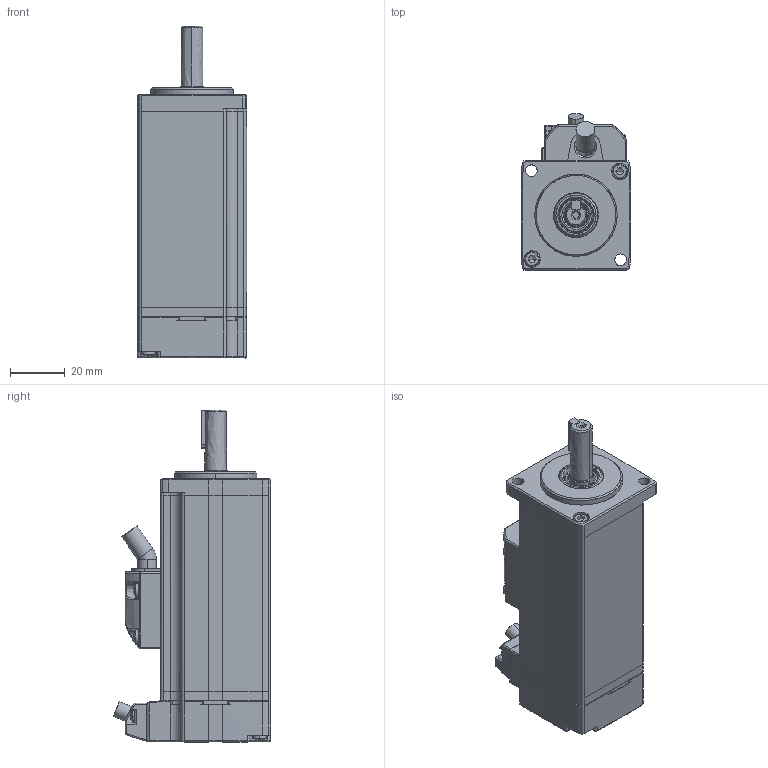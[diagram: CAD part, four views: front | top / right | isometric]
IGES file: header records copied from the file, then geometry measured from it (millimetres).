
Global section: file name: G:\00 graphics WIP\DX web info\3D drawings of EM3A\MXL-A5A0430LA242\MXL-A5A0430LA242.igs; native system: Rhinoceros ( May 22 2017 ); preprocessor: Trout Lake IGES 012 May 22 2017; author: Trio-MK; date: 200721.144718; units: millimetre
Bounding box: 40 x 57.22 x 121 mm (x, y, z)
Surface area: 25556 mm2 (no closed solid volume)
Topology: 0 solids, 0 shells, 562 faces, 6330 edges, 6312 vertices
Faces by surface type: bspline 562
